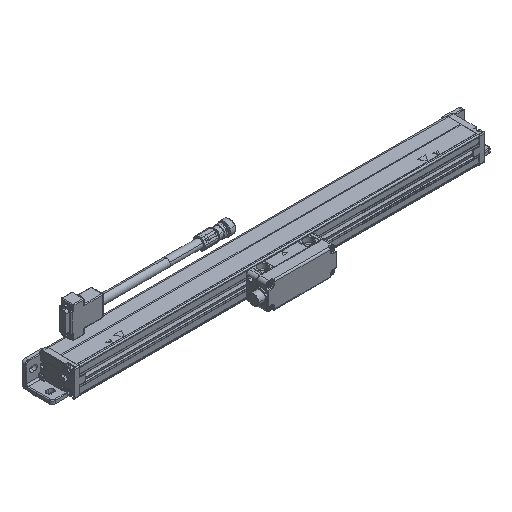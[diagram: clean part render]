
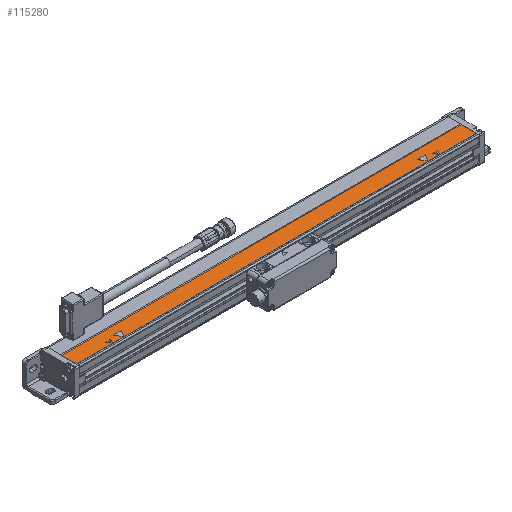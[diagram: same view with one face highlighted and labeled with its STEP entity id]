
A CAD part, isometric view. The second image highlights one B-rep face of the part: STEP entity #115280.
In plain terms, the highlighted planar face has unit normal (0, 0, 1).
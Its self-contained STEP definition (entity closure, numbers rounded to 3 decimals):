
#81630=CARTESIAN_POINT('',(2204.,65.11,34.29));
#81640=VERTEX_POINT('',#81630);
#81810=CARTESIAN_POINT('',(2202.268,68.11,34.29));
#81820=VERTEX_POINT('',#81810);
#81850=CARTESIAN_POINT('',(2189.197,90.75,34.29));
#81860=DIRECTION('',(-0.5,0.866,0.));
#81870=VECTOR('',#81860,1.);
#81880=LINE('',#81850,#81870);
#81890=EDGE_CURVE('',#81640,#81820,#81880,.T.);
#112960=CARTESIAN_POINT('',(2682.,82.01,34.29));
#112970=VERTEX_POINT('',#112960);
#113020=CARTESIAN_POINT('',(2144.,82.01,34.29));
#113030=DIRECTION('',(1.,0.,0.));
#113040=VECTOR('',#113030,1.);
#113050=LINE('',#113020,#113040);
#113060=CARTESIAN_POINT('',(2156.,82.01,34.29));
#113070=VERTEX_POINT('',#113060);
#113080=EDGE_CURVE('',#113070,#112970,#113050,.T.);
#113550=CARTESIAN_POINT('',(2144.,62.01,34.29));
#113560=DIRECTION('',(-0.,0.,1.));
#113570=DIRECTION('',(0.,-1.,0.));
#113580=AXIS2_PLACEMENT_3D('',#113550,#113560,#113570);
#113590=PLANE('',#113580);
#113600=CARTESIAN_POINT('',(657.,71.11,34.29));
#113610=DIRECTION('',(-1.,0.,0.));
#113620=VECTOR('',#113610,1.);
#113630=LINE('',#113600,#113620);
#113640=CARTESIAN_POINT('',(2624.196,71.11,34.29));
#113650=VERTEX_POINT('',#113640);
#113660=CARTESIAN_POINT('',(2613.804,71.11,34.29));
#113670=VERTEX_POINT('',#113660);
#113680=EDGE_CURVE('',#113650,#113670,#113630,.T.);
#113690=ORIENTED_EDGE('',*,*,#113680,.F.);
#113700=CARTESIAN_POINT('',(2602.465,90.75,34.29));
#113710=DIRECTION('',(0.5,-0.866,0.));
#113720=VECTOR('',#113710,1.);
#113730=LINE('',#113700,#113720);
#113740=CARTESIAN_POINT('',(2619.,62.11,34.29));
#113750=VERTEX_POINT('',#113740);
#113760=EDGE_CURVE('',#113670,#113750,#113730,.T.);
#113770=ORIENTED_EDGE('',*,*,#113760,.F.);
#113780=CARTESIAN_POINT('',(2635.535,90.75,34.29));
#113790=DIRECTION('',(0.5,0.866,0.));
#113800=VECTOR('',#113790,1.);
#113810=LINE('',#113780,#113800);
#113820=EDGE_CURVE('',#113750,#113650,#113810,.T.);
#113830=ORIENTED_EDGE('',*,*,#113820,.F.);
#113840=EDGE_LOOP('',(#113830,#113770,#113690));
#113850=FACE_BOUND('',#113840,.T.);
#113860=CARTESIAN_POINT('',(2650.535,90.75,34.29));
#113870=DIRECTION('',(0.5,0.866,0.));
#113880=VECTOR('',#113870,1.);
#113890=LINE('',#113860,#113880);
#113900=CARTESIAN_POINT('',(2634.,62.11,34.29));
#113910=VERTEX_POINT('',#113900);
#113920=CARTESIAN_POINT('',(2637.464,68.11,34.29));
#113930=VERTEX_POINT('',#113920);
#113940=EDGE_CURVE('',#113910,#113930,#113890,.T.);
#113950=ORIENTED_EDGE('',*,*,#113940,.F.);
#113960=CARTESIAN_POINT('',(2877.,68.11,34.29));
#113970=DIRECTION('',(-1.,0.,0.));
#113980=VECTOR('',#113970,1.);
#113990=LINE('',#113960,#113980);
#114000=CARTESIAN_POINT('',(2635.732,68.11,34.29));
#114010=VERTEX_POINT('',#114000);
#114020=EDGE_CURVE('',#113930,#114010,#113990,.T.);
#114030=ORIENTED_EDGE('',*,*,#114020,.F.);
#114040=CARTESIAN_POINT('',(2648.803,90.75,34.29));
#114050=DIRECTION('',(-0.5,-0.866,-0.));
#114060=VECTOR('',#114050,1.);
#114070=LINE('',#114040,#114060);
#114080=CARTESIAN_POINT('',(2634.,65.11,34.29));
#114090=VERTEX_POINT('',#114080);
#114100=EDGE_CURVE('',#114010,#114090,#114070,.T.);
#114110=ORIENTED_EDGE('',*,*,#114100,.F.);
#114120=CARTESIAN_POINT('',(2619.197,90.75,34.29));
#114130=DIRECTION('',(-0.5,0.866,0.));
#114140=VECTOR('',#114130,1.);
#114150=LINE('',#114120,#114140);
#114160=CARTESIAN_POINT('',(2632.268,68.11,34.29));
#114170=VERTEX_POINT('',#114160);
#114180=EDGE_CURVE('',#114090,#114170,#114150,.T.);
#114190=ORIENTED_EDGE('',*,*,#114180,.F.);
#114200=CARTESIAN_POINT('',(2877.,68.11,34.29));
#114210=DIRECTION('',(-1.,0.,0.));
#114220=VECTOR('',#114210,1.);
#114230=LINE('',#114200,#114220);
#114240=CARTESIAN_POINT('',(2630.536,68.11,34.29));
#114250=VERTEX_POINT('',#114240);
#114260=EDGE_CURVE('',#114170,#114250,#114230,.T.);
#114270=ORIENTED_EDGE('',*,*,#114260,.F.);
#114280=CARTESIAN_POINT('',(2617.465,90.75,34.29));
#114290=DIRECTION('',(0.5,-0.866,0.));
#114300=VECTOR('',#114290,1.);
#114310=LINE('',#114280,#114300);
#114320=EDGE_CURVE('',#114250,#113910,#114310,.T.);
#114330=ORIENTED_EDGE('',*,*,#114320,.F.);
#114340=EDGE_LOOP('',(#114330,#114270,#114190,#114110,#114030,#113950));
#114350=FACE_BOUND('',#114340,.T.);
#114360=CARTESIAN_POINT('',(2144.,62.01,34.29));
#114370=DIRECTION('',(1.,0.,0.));
#114380=VECTOR('',#114370,1.);
#114390=LINE('',#114360,#114380);
#114400=CARTESIAN_POINT('',(2156.,62.01,34.29));
#114410=VERTEX_POINT('',#114400);
#114420=CARTESIAN_POINT('',(2682.,62.01,34.29));
#114430=VERTEX_POINT('',#114420);
#114440=EDGE_CURVE('',#114410,#114430,#114390,.T.);
#114450=ORIENTED_EDGE('',*,*,#114440,.T.);
#114460=CARTESIAN_POINT('',(2156.,90.75,34.29));
#114470=DIRECTION('',(0.,-1.,0.));
#114480=VECTOR('',#114470,1.);
#114490=LINE('',#114460,#114480);
#114500=EDGE_CURVE('',#113070,#114410,#114490,.T.);
#114510=ORIENTED_EDGE('',*,*,#114500,.T.);
#114520=ORIENTED_EDGE('',*,*,#113080,.F.);
#114530=CARTESIAN_POINT('',(2682.,90.75,34.29));
#114540=DIRECTION('',(0.,1.,0.));
#114550=VECTOR('',#114540,1.);
#114560=LINE('',#114530,#114550);
#114570=EDGE_CURVE('',#114430,#112970,#114560,.T.);
#114580=ORIENTED_EDGE('',*,*,#114570,.T.);
#114590=EDGE_LOOP('',(#114580,#114520,#114510,#114450));
#114600=FACE_OUTER_BOUND('',#114590,.T.);
#114610=CARTESIAN_POINT('',(2220.535,90.75,34.29));
#114620=DIRECTION('',(0.5,0.866,0.));
#114630=VECTOR('',#114620,1.);
#114640=LINE('',#114610,#114630);
#114650=CARTESIAN_POINT('',(2204.,62.11,34.29));
#114660=VERTEX_POINT('',#114650);
#114670=CARTESIAN_POINT('',(2207.464,68.11,34.29));
#114680=VERTEX_POINT('',#114670);
#114690=EDGE_CURVE('',#114660,#114680,#114640,.T.);
#114700=ORIENTED_EDGE('',*,*,#114690,.F.);
#114710=CARTESIAN_POINT('',(2807.,68.11,34.29));
#114720=DIRECTION('',(-1.,0.,-0.));
#114730=VECTOR('',#114720,1.);
#114740=LINE('',#114710,#114730);
#114750=CARTESIAN_POINT('',(2205.732,68.11,34.29));
#114760=VERTEX_POINT('',#114750);
#114770=EDGE_CURVE('',#114680,#114760,#114740,.T.);
#114780=ORIENTED_EDGE('',*,*,#114770,.F.);
#114790=CARTESIAN_POINT('',(2218.803,90.75,34.29));
#114800=DIRECTION('',(-0.5,-0.866,-0.));
#114810=VECTOR('',#114800,1.);
#114820=LINE('',#114790,#114810);
#114830=EDGE_CURVE('',#114760,#81640,#114820,.T.);
#114840=ORIENTED_EDGE('',*,*,#114830,.F.);
#114850=ORIENTED_EDGE('',*,*,#81890,.F.);
#114860=CARTESIAN_POINT('',(2807.,68.11,34.29));
#114870=DIRECTION('',(-1.,0.,-0.));
#114880=VECTOR('',#114870,1.);
#114890=LINE('',#114860,#114880);
#114900=CARTESIAN_POINT('',(2200.536,68.11,34.29));
#114910=VERTEX_POINT('',#114900);
#114920=EDGE_CURVE('',#81820,#114910,#114890,.T.);
#114930=ORIENTED_EDGE('',*,*,#114920,.F.);
#114940=CARTESIAN_POINT('',(2187.465,90.75,34.29));
#114950=DIRECTION('',(0.5,-0.866,0.));
#114960=VECTOR('',#114950,1.);
#114970=LINE('',#114940,#114960);
#114980=EDGE_CURVE('',#114910,#114660,#114970,.T.);
#114990=ORIENTED_EDGE('',*,*,#114980,.F.);
#115000=EDGE_LOOP('',(#114990,#114930,#114850,#114840,#114780,#114700));
#115010=FACE_BOUND('',#115000,.T.);
#115020=CARTESIAN_POINT('',(2202.465,90.75,34.29));
#115030=DIRECTION('',(0.5,-0.866,0.));
#115040=VECTOR('',#115030,1.);
#115050=LINE('',#115020,#115040);
#115060=CARTESIAN_POINT('',(2213.804,71.11,34.29));
#115070=VERTEX_POINT('',#115060);
#115080=CARTESIAN_POINT('',(2219.,62.11,34.29));
#115090=VERTEX_POINT('',#115080);
#115100=EDGE_CURVE('',#115070,#115090,#115050,.T.);
#115110=ORIENTED_EDGE('',*,*,#115100,.F.);
#115120=CARTESIAN_POINT('',(2235.535,90.75,34.29));
#115130=DIRECTION('',(0.5,0.866,0.));
#115140=VECTOR('',#115130,1.);
#115150=LINE('',#115120,#115140);
#115160=CARTESIAN_POINT('',(2224.196,71.11,34.29));
#115170=VERTEX_POINT('',#115160);
#115180=EDGE_CURVE('',#115090,#115170,#115150,.T.);
#115190=ORIENTED_EDGE('',*,*,#115180,.F.);
#115200=CARTESIAN_POINT('',(2757.,71.11,34.29));
#115210=DIRECTION('',(-1.,0.,0.));
#115220=VECTOR('',#115210,1.);
#115230=LINE('',#115200,#115220);
#115240=EDGE_CURVE('',#115170,#115070,#115230,.T.);
#115250=ORIENTED_EDGE('',*,*,#115240,.F.);
#115260=EDGE_LOOP('',(#115250,#115190,#115110));
#115270=FACE_BOUND('',#115260,.T.);
#115280=ADVANCED_FACE('',(#113850,#114350,#114600,#115010,#115270),
#113590,.T.);
